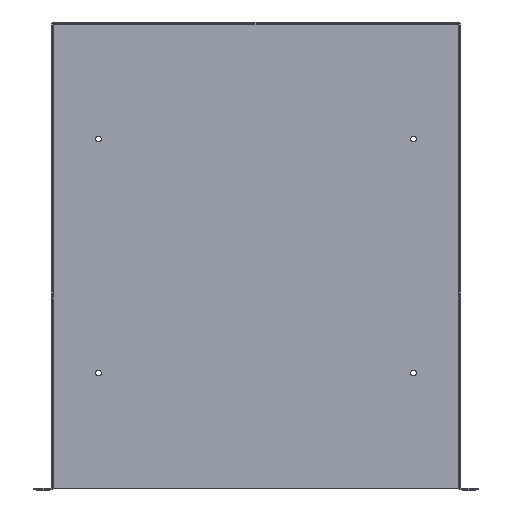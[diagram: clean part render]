
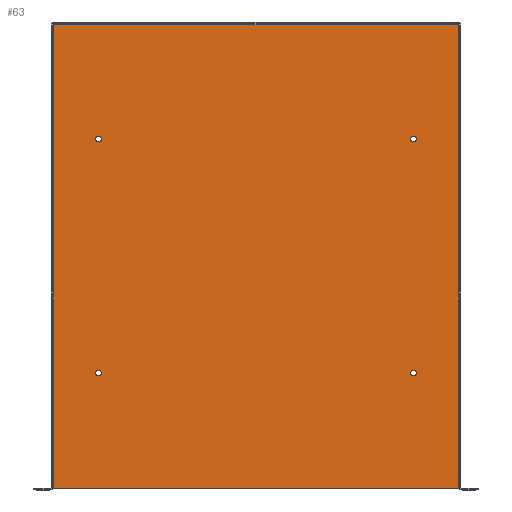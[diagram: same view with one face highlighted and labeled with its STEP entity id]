
A CAD part, top view. The second image highlights one B-rep face of the part: STEP entity #63.
In plain terms, the highlighted planar face has unit normal (0, 0, 1).
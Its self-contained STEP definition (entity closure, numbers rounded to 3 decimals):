
#63 = ADVANCED_FACE( '', ( #189, #190, #191, #192, #193 ), #194, .T. );
#189 = FACE_BOUND( '', #452, .T. );
#190 = FACE_BOUND( '', #453, .T. );
#191 = FACE_BOUND( '', #454, .T. );
#192 = FACE_BOUND( '', #455, .T. );
#193 = FACE_OUTER_BOUND( '', #456, .T. );
#194 = PLANE( '', #457 );
#452 = EDGE_LOOP( '', ( #900 ) );
#453 = EDGE_LOOP( '', ( #901 ) );
#454 = EDGE_LOOP( '', ( #902 ) );
#455 = EDGE_LOOP( '', ( #903 ) );
#456 = EDGE_LOOP( '', ( #904, #905, #906, #907 ) );
#457 = AXIS2_PLACEMENT_3D( '', #908, #909, #910 );
#900 = ORIENTED_EDGE( '', *, *, #1659, .F. );
#901 = ORIENTED_EDGE( '', *, *, #1660, .F. );
#902 = ORIENTED_EDGE( '', *, *, #1661, .F. );
#903 = ORIENTED_EDGE( '', *, *, #1662, .F. );
#904 = ORIENTED_EDGE( '', *, *, #1658, .F. );
#905 = ORIENTED_EDGE( '', *, *, #1663, .T. );
#906 = ORIENTED_EDGE( '', *, *, #1664, .F. );
#907 = ORIENTED_EDGE( '', *, *, #1650, .T. );
#908 = CARTESIAN_POINT( '', ( -222.25, -253.086, 1.829 ) );
#909 = DIRECTION( '', ( 0., 0., 1. ) );
#910 = DIRECTION( '', ( 1., 0., 0. ) );
#1650 = EDGE_CURVE( '', #1992, #1989, #1993, .T. );
#1658 = EDGE_CURVE( '', #1979, #1989, #2004, .T. );
#1659 = EDGE_CURVE( '', #2005, #2005, #2006, .T. );
#1660 = EDGE_CURVE( '', #2007, #2007, #2008, .T. );
#1661 = EDGE_CURVE( '', #2009, #2009, #2010, .T. );
#1662 = EDGE_CURVE( '', #2011, #2011, #2012, .T. );
#1663 = EDGE_CURVE( '', #1979, #2013, #2014, .T. );
#1664 = EDGE_CURVE( '', #1992, #2013, #2015, .T. );
#1979 = VERTEX_POINT( '', #2504 );
#1989 = VERTEX_POINT( '', #2518 );
#1992 = VERTEX_POINT( '', #2521 );
#1993 = LINE( '', #2522, #2523 );
#2004 = LINE( '', #2539, #2540 );
#2005 = VERTEX_POINT( '', #2541 );
#2006 = CIRCLE( '', #2542, 3.175 );
#2007 = VERTEX_POINT( '', #2543 );
#2008 = CIRCLE( '', #2544, 3.175 );
#2009 = VERTEX_POINT( '', #2545 );
#2010 = CIRCLE( '', #2546, 3.175 );
#2011 = VERTEX_POINT( '', #2547 );
#2012 = CIRCLE( '', #2548, 3.175 );
#2013 = VERTEX_POINT( '', #2549 );
#2014 = LINE( '', #2550, #2551 );
#2015 = LINE( '', #2552, #2553 );
#2504 = CARTESIAN_POINT( '', ( 219.507, 250.342, 1.829 ) );
#2518 = CARTESIAN_POINT( '', ( 219.507, -253.086, 1.829 ) );
#2521 = CARTESIAN_POINT( '', ( -219.507, -253.086, 1.829 ) );
#2522 = CARTESIAN_POINT( '', ( -222.25, -253.086, 1.829 ) );
#2523 = VECTOR( '', #3191, 1000. );
#2539 = CARTESIAN_POINT( '', ( 219.507, 253.086, 1.829 ) );
#2540 = VECTOR( '', #3203, 1000. );
#2541 = CARTESIAN_POINT( '', ( -167.869, 126.086, 1.829 ) );
#2542 = AXIS2_PLACEMENT_3D( '', #3204, #3205, #3206 );
#2543 = CARTESIAN_POINT( '', ( 174.219, -127.914, 1.829 ) );
#2544 = AXIS2_PLACEMENT_3D( '', #3207, #3208, #3209 );
#2545 = CARTESIAN_POINT( '', ( 174.219, 126.086, 1.829 ) );
#2546 = AXIS2_PLACEMENT_3D( '', #3210, #3211, #3212 );
#2547 = CARTESIAN_POINT( '', ( -167.869, -127.914, 1.829 ) );
#2548 = AXIS2_PLACEMENT_3D( '', #3213, #3214, #3215 );
#2549 = CARTESIAN_POINT( '', ( -219.507, 250.342, 1.829 ) );
#2550 = CARTESIAN_POINT( '', ( -219.505, 250.342, 1.829 ) );
#2551 = VECTOR( '', #3216, 1000. );
#2552 = CARTESIAN_POINT( '', ( -219.507, -253.086, 1.829 ) );
#2553 = VECTOR( '', #3217, 1000. );
#3191 = DIRECTION( '', ( 1., 0., 0. ) );
#3203 = DIRECTION( '', ( 0., -1., 0. ) );
#3204 = CARTESIAN_POINT( '', ( -171.044, 126.086, 1.829 ) );
#3205 = DIRECTION( '', ( 0., 0., 1. ) );
#3206 = DIRECTION( '', ( 1., 0., 0. ) );
#3207 = CARTESIAN_POINT( '', ( 171.044, -127.914, 1.829 ) );
#3208 = DIRECTION( '', ( 0., 0., 1. ) );
#3209 = DIRECTION( '', ( 1., 0., 0. ) );
#3210 = CARTESIAN_POINT( '', ( 171.044, 126.086, 1.829 ) );
#3211 = DIRECTION( '', ( 0., 0., 1. ) );
#3212 = DIRECTION( '', ( 1., 0., 0. ) );
#3213 = CARTESIAN_POINT( '', ( -171.044, -127.914, 1.829 ) );
#3214 = DIRECTION( '', ( 0., 0., 1. ) );
#3215 = DIRECTION( '', ( 1., 0., 0. ) );
#3216 = DIRECTION( '', ( -1., 0., 0. ) );
#3217 = DIRECTION( '', ( 0., 1., 0. ) );
